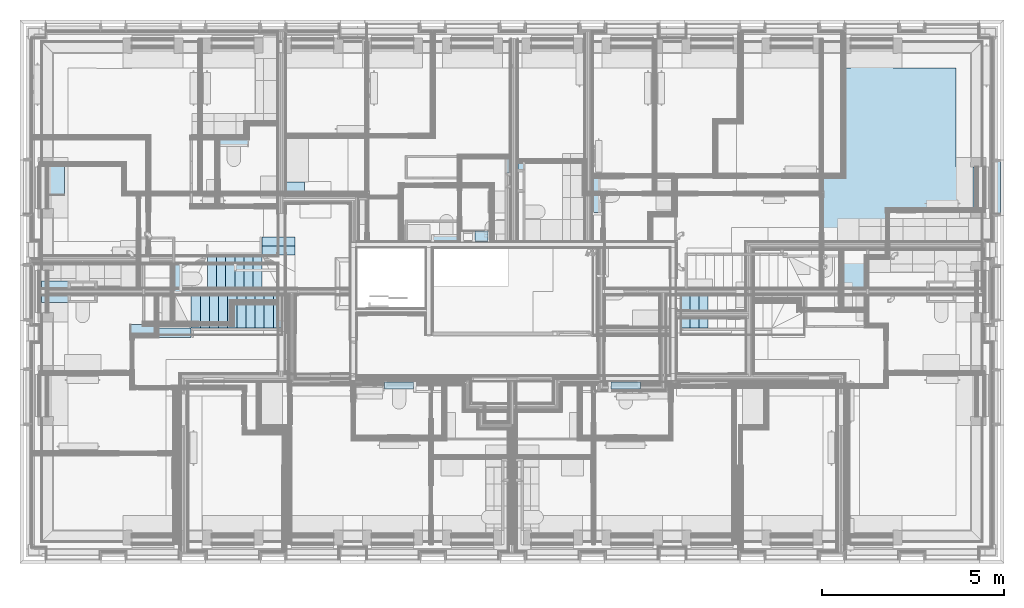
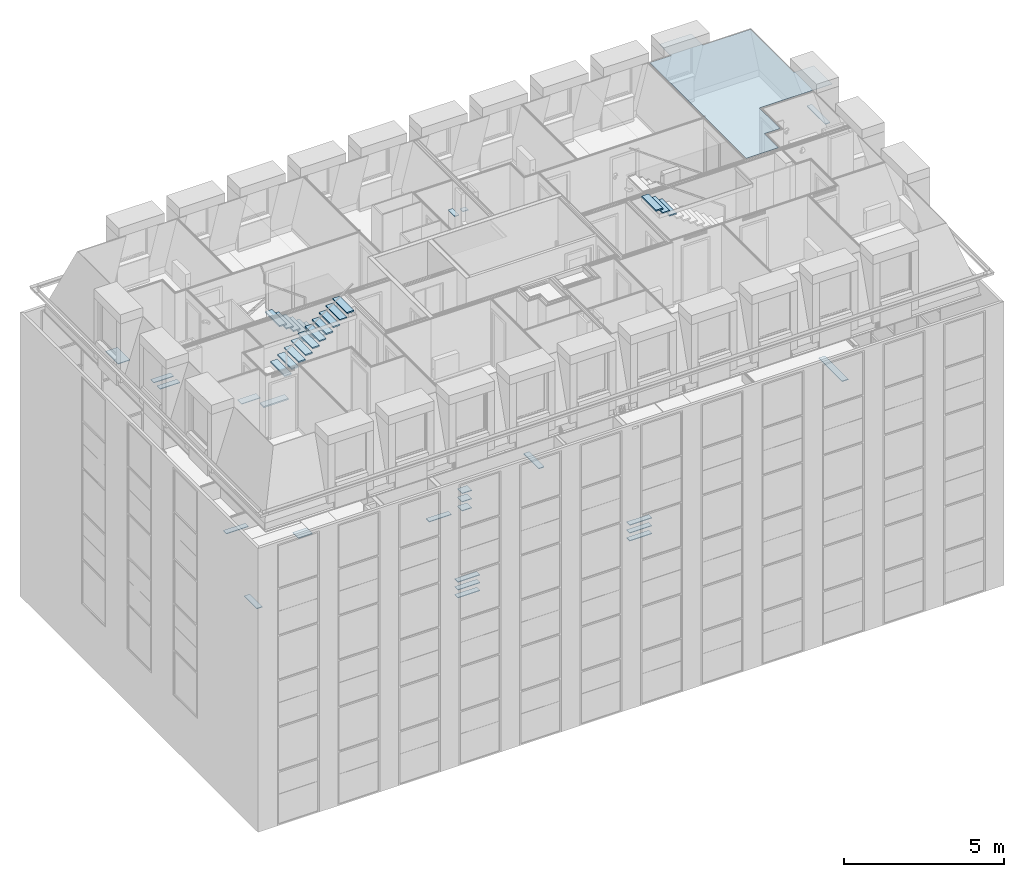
# One storey, part 81 of 169: 45 slabs.
"""IFC2X3 building model written with IfcOpenShell, lengths in metres."""

from ifc_helpers import new_model, entity, si_unit, converted_unit, derived_unit, money_unit, direction, frame, origin_with_axes, place, context, subcontext, project, spatial, faceted_brep, material, type_object, element, save


model = new_model("IFC2X3")

# Units and contexts
model_context = context("Model", 3, precision=1e-05, world=origin_with_axes(), true_north=direction((0.0, 1.0)))
body_context = subcontext(model_context, "Body", "Model", "MODEL_VIEW", scale=1.0)
ifc_project = project(units=[si_unit("LENGTHUNIT", "METRE"), si_unit("AREAUNIT", "SQUARE_METRE"), si_unit("VOLUMEUNIT", "CUBIC_METRE"), si_unit("ABSORBEDDOSEUNIT", "GRAY"), si_unit("AMOUNTOFSUBSTANCEUNIT", "MOLE"), si_unit("DOSEEQUIVALENTUNIT", "SIEVERT"), si_unit("ELECTRICCAPACITANCEUNIT", "FARAD"), si_unit("ELECTRICCHARGEUNIT", "COULOMB"), si_unit("ELECTRICCONDUCTANCEUNIT", "SIEMENS"), si_unit("ELECTRICCURRENTUNIT", "AMPERE"), si_unit("ELECTRICRESISTANCEUNIT", "OHM"), si_unit("ELECTRICVOLTAGEUNIT", "VOLT"), si_unit("ENERGYUNIT", "JOULE"), si_unit("FORCEUNIT", "NEWTON"), si_unit("FREQUENCYUNIT", "HERTZ"), si_unit("ILLUMINANCEUNIT", "LUX"), si_unit("INDUCTANCEUNIT", "HENRY"), si_unit("LUMINOUSFLUXUNIT", "LUMEN"), si_unit("LUMINOUSINTENSITYUNIT", "CANDELA"), si_unit("MAGNETICFLUXDENSITYUNIT", "TESLA"), si_unit("MAGNETICFLUXUNIT", "WEBER"), si_unit("MASSUNIT", "GRAM"), converted_unit("PLANEANGLEUNIT", "degree", entity("IfcReal", 0.0174532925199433), si_unit("PLANEANGLEUNIT", "RADIAN"), dimensions=[0, 0, 0, 0, 0, 0, 0]), si_unit("POWERUNIT", "WATT"), si_unit("PRESSUREUNIT", "PASCAL"), si_unit("RADIOACTIVITYUNIT", "BECQUEREL"), si_unit("SOLIDANGLEUNIT", "STERADIAN"), si_unit("THERMODYNAMICTEMPERATUREUNIT", "KELVIN"), si_unit("TIMEUNIT", "SECOND"), derived_unit("ACCELERATIONUNIT", [(si_unit("LENGTHUNIT", "METRE"), 1), (si_unit("TIMEUNIT", "SECOND"), -2)]), derived_unit("ANGULARVELOCITYUNIT", [(converted_unit("PLANEANGLEUNIT", "degree", entity("IfcReal", 0.0174532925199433), si_unit("PLANEANGLEUNIT", "RADIAN"), dimensions=[0, 0, 0, 0, 0, 0, 0]), 1), (si_unit("TIMEUNIT", "SECOND"), -1)]), derived_unit("CURVATUREUNIT", [(converted_unit("PLANEANGLEUNIT", "degree", entity("IfcReal", 0.0174532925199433), si_unit("PLANEANGLEUNIT", "RADIAN"), dimensions=[0, 0, 0, 0, 0, 0, 0]), 1), (si_unit("LENGTHUNIT", "METRE"), -1)]), derived_unit("DYNAMICVISCOSITYUNIT", [(si_unit("PRESSUREUNIT", "PASCAL"), 1), (si_unit("TIMEUNIT", "SECOND"), 1)]), derived_unit("HEATFLUXDENSITYUNIT", [(si_unit("POWERUNIT", "WATT"), 1), (si_unit("LENGTHUNIT", "METRE"), -2)]), derived_unit("HEATINGVALUEUNIT", [(si_unit("ENERGYUNIT", "JOULE"), 1), (si_unit("MASSUNIT", "GRAM"), -1)]), derived_unit("INTEGERCOUNTRATEUNIT", [(si_unit("TIMEUNIT", "SECOND"), -1)]), derived_unit("IONCONCENTRATIONUNIT", [(si_unit("MASSUNIT", "GRAM"), 1), (si_unit("VOLUMEUNIT", "CUBIC_METRE"), -1)]), derived_unit("ISOTHERMALMOISTURECAPACITYUNIT", [(si_unit("VOLUMEUNIT", "CUBIC_METRE"), 1), (si_unit("MASSUNIT", "GRAM"), -1)]), derived_unit("KINEMATICVISCOSITYUNIT", [(si_unit("AREAUNIT", "SQUARE_METRE"), 1), (si_unit("TIMEUNIT", "SECOND"), -1)]), derived_unit("LINEARFORCEUNIT", [(si_unit("FORCEUNIT", "NEWTON"), 1), (si_unit("LENGTHUNIT", "METRE"), -1)]), derived_unit("LINEARMOMENTUNIT", [(si_unit("FORCEUNIT", "NEWTON"), 1), (si_unit("LENGTHUNIT", "METRE"), -1)]), derived_unit("LINEARSTIFFNESSUNIT", [(si_unit("FORCEUNIT", "NEWTON"), 1), (si_unit("LENGTHUNIT", "METRE"), -1)]), derived_unit("LINEARVELOCITYUNIT", [(si_unit("LENGTHUNIT", "METRE"), 1), (si_unit("TIMEUNIT", "SECOND"), -1)]), derived_unit("LUMINOUSINTENSITYDISTRIBUTIONUNIT", [(si_unit("LUMINOUSINTENSITYUNIT", "CANDELA"), 1), (si_unit("LUMINOUSFLUXUNIT", "LUMEN"), -1)]), derived_unit("MASSDENSITYUNIT", [(si_unit("MASSUNIT", "GRAM"), 1), (si_unit("VOLUMEUNIT", "CUBIC_METRE"), -1)]), derived_unit("MASSFLOWRATEUNIT", [(si_unit("MASSUNIT", "GRAM"), 1), (si_unit("TIMEUNIT", "SECOND"), -1)]), derived_unit("MASSPERLENGTHUNIT", [(si_unit("MASSUNIT", "GRAM"), 1), (si_unit("LENGTHUNIT", "METRE"), -1)]), derived_unit("MODULUSOFELASTICITYUNIT", [(si_unit("FORCEUNIT", "NEWTON"), 1), (si_unit("AREAUNIT", "SQUARE_METRE"), -1)]), derived_unit("MODULUSOFLINEARSUBGRADEREACTIONUNIT", [(si_unit("FORCEUNIT", "NEWTON"), 1), (si_unit("LENGTHUNIT", "METRE"), -2)]), derived_unit("MODULUSOFROTATIONALSUBGRADEREACTIONUNIT", [(si_unit("FORCEUNIT", "NEWTON"), 1), (si_unit("LENGTHUNIT", "METRE"), 1)]), derived_unit("MODULUSOFSUBGRADEREACTIONUNIT", [(si_unit("FORCEUNIT", "NEWTON"), 1), (si_unit("VOLUMEUNIT", "CUBIC_METRE"), -1)]), derived_unit("MOISTUREDIFFUSIVITYUNIT", [(si_unit("VOLUMEUNIT", "CUBIC_METRE"), 1), (si_unit("TIMEUNIT", "SECOND"), -1)]), derived_unit("MOLECULARWEIGHTUNIT", [(si_unit("MASSUNIT", "GRAM"), 1), (si_unit("AMOUNTOFSUBSTANCEUNIT", "MOLE"), -1)]), derived_unit("PLANARFORCEUNIT", [(si_unit("FORCEUNIT", "NEWTON"), 1), (si_unit("LENGTHUNIT", "METRE"), -2)]), derived_unit("ROTATIONALFREQUENCYUNIT", [(si_unit("TIMEUNIT", "SECOND"), -1)]), derived_unit("ROTATIONALMASSUNIT", [(si_unit("MASSUNIT", "GRAM"), 1), (si_unit("LENGTHUNIT", "METRE"), 2)]), derived_unit("ROTATIONALSTIFFNESSUNIT", [(si_unit("FORCEUNIT", "NEWTON"), 1), (si_unit("LENGTHUNIT", "METRE"), 1), (converted_unit("PLANEANGLEUNIT", "degree", entity("IfcReal", 0.0174532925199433), si_unit("PLANEANGLEUNIT", "RADIAN"), dimensions=[0, 0, 0, 0, 0, 0, 0]), -1)]), derived_unit("SECTIONAREAINTEGRALUNIT", [(si_unit("LENGTHUNIT", "METRE"), 5)]), derived_unit("SECTIONMODULUSUNIT", [(si_unit("LENGTHUNIT", "METRE"), 3)]), derived_unit("SHEARMODULUSUNIT", [(si_unit("FORCEUNIT", "NEWTON"), 1), (si_unit("AREAUNIT", "SQUARE_METRE"), -1)]), derived_unit("SOUNDPOWERUNIT", [(si_unit("ENERGYUNIT", "JOULE"), 1), (si_unit("TIMEUNIT", "SECOND"), -1)]), derived_unit("SPECIFICHEATCAPACITYUNIT", [(si_unit("FORCEUNIT", "NEWTON"), 1), (si_unit("MASSUNIT", "GRAM"), -1), (si_unit("THERMODYNAMICTEMPERATUREUNIT", "KELVIN"), -1)]), derived_unit("TEMPERATUREGRADIENTUNIT", [(si_unit("THERMODYNAMICTEMPERATUREUNIT", "KELVIN"), 1), (si_unit("LENGTHUNIT", "METRE"), -1)]), derived_unit("THERMALADMITTANCEUNIT", [(si_unit("POWERUNIT", "WATT"), 1), (si_unit("AREAUNIT", "SQUARE_METRE"), -1), (si_unit("THERMODYNAMICTEMPERATUREUNIT", "KELVIN"), -1)]), derived_unit("THERMALCONDUCTANCEUNIT", [(si_unit("POWERUNIT", "WATT"), 1), (si_unit("LENGTHUNIT", "METRE"), -1), (si_unit("THERMODYNAMICTEMPERATUREUNIT", "KELVIN"), -1)]), derived_unit("THERMALEXPANSIONCOEFFICIENTUNIT", [(si_unit("THERMODYNAMICTEMPERATUREUNIT", "KELVIN"), -1)]), derived_unit("THERMALRESISTANCEUNIT", [(si_unit("AREAUNIT", "SQUARE_METRE"), 1), (si_unit("POWERUNIT", "WATT"), -1)]), derived_unit("THERMALTRANSMITTANCEUNIT", [(si_unit("POWERUNIT", "WATT"), 1), (si_unit("AREAUNIT", "SQUARE_METRE"), -1), (si_unit("THERMODYNAMICTEMPERATUREUNIT", "KELVIN"), -1)]), derived_unit("TORQUEUNIT", [(si_unit("FORCEUNIT", "NEWTON"), 1), (si_unit("LENGTHUNIT", "METRE"), 1)]), derived_unit("VAPORPERMEABILITYUNIT", [(si_unit("MASSUNIT", "GRAM"), 1), (si_unit("TIMEUNIT", "SECOND"), -1)]), derived_unit("VOLUMETRICFLOWRATEUNIT", [(si_unit("VOLUMEUNIT", "CUBIC_METRE"), 1), (si_unit("TIMEUNIT", "SECOND"), -1)]), derived_unit("WARPINGCONSTANTUNIT", [(si_unit("LENGTHUNIT", "METRE"), 6)]), derived_unit("WARPINGMOMENTUNIT", [(si_unit("FORCEUNIT", "NEWTON"), 1), (si_unit("LENGTHUNIT", "METRE"), 2)]), money_unit("GBP")], contexts=[model_context])

# Site, building, storey
site_placement = place(None, origin_with_axes())
site = spatial("IfcSite", under=ifc_project, at=site_placement, Name="Site", CompositionType="ELEMENT")
building_placement = place(site_placement, origin_with_axes())
building = spatial("IfcBuilding", under=site, at=building_placement, Name="Building01", CompositionType="ELEMENT")
storey_placement = place(building_placement, frame((0.0, 0.0, 5.15), z_axis=(0.0, 0.0, 1.0), x_axis=(1.0, 0.0, 0.0)))
storey = spatial("IfcBuildingStorey", under=building, at=storey_placement, Name="1F", CompositionType="ELEMENT", Elevation=5.15)

# Slabs
ifc_material_1 = material(Name="A_BSUK_Ceramic_WallTiles")
slab_type = type_object("IfcSlabType", Name="A-FloorsSlabs A_BSUK_Slabs", PredefinedType="FLOOR")
for number, where, z_axis, x_axis, name in (
    (1, (17.0075, 4.779998, 1.375), (0.0, 0.0, 1.0), (1.0, 0.0, 0.0), "A-FloorsSlabs A_BSUK_Slabs"),
    (2, (17.0075, 4.779998, 1.675), (0.0, 0.0, 1.0), (1.0, 0.0, 0.0), "A-FloorsSlabs A_BSUK_Slabs"),
    (3, (17.0075, 4.779998, 1.975), (0.0, 0.0, 1.0), (1.0, 0.0, 0.0), "A-FloorsSlabs A_BSUK_Slabs"),
):
    element("IfcSlab", number, at=place(storey_placement, frame(where, z_axis=z_axis, x_axis=x_axis)), inside=storey, type_object=slab_type, material=ifc_material_1, Name=name, ObjectType="A-FloorsSlabs A_BSUK_Slabs", context=body_context, shape_type="Brep", body=[
        faceted_brep([(0.0, 0.200002, 0.0), (0.0, 0.200002, 0.025), (0.0, 0.0, 0.025), (0.0, 0.0, 0.0), (-0.8, 3e-06, 0.025), (-0.8, 3e-06, 0.0), (-0.799999, 0.200002, 0.025), (-0.799999, 0.200002, 0.0)], [[[0, 1, 2, 3]], [[3, 2, 4, 5]], [[5, 4, 6, 7]], [[7, 6, 1, 0]], [[1, 6, 4, 2]], [[3, 5, 7, 0]]]),
    ])
for number, where, z_axis, x_axis, name in (
    (4, (9.992536, 4.779998, 1.375), (0.0, 0.0, 1.0), (1.0, 0.0, 0.0), "A-FloorsSlabs A_BSUK_Slabs"),
    (5, (9.992536, 4.779998, 1.675), (0.0, 0.0, 1.0), (1.0, 0.0, 0.0), "A-FloorsSlabs A_BSUK_Slabs"),
    (6, (9.992536, 4.779998, 1.975), (0.0, 0.0, 1.0), (1.0, 0.0, 0.0), "A-FloorsSlabs A_BSUK_Slabs"),
):
    element("IfcSlab", number, at=place(storey_placement, frame(where, z_axis=z_axis, x_axis=x_axis)), inside=storey, type_object=slab_type, material=ifc_material_1, Name=name, ObjectType="A-FloorsSlabs A_BSUK_Slabs", context=body_context, shape_type="Brep", body=[
        faceted_brep([(0.0, 0.0, 0.0), (0.0, 0.0, 0.025), (0.0, 0.200002, 0.025), (0.0, 0.200002, 0.0), (0.8, 3e-06, 0.0), (0.8, 3e-06, 0.025), (0.799999, 0.200002, 0.0), (0.799999, 0.200002, 0.025)], [[[0, 1, 2, 3]], [[4, 5, 1, 0]], [[6, 7, 5, 4]], [[3, 2, 7, 6]], [[1, 5, 7, 2]], [[3, 6, 4, 0]]]),
    ])
slab_1_placement = place(storey_placement, frame((4.44073, 6.914372, 1.375), z_axis=(0.0, 0.0, 1.0), x_axis=(0.0, 1.0, 0.0)))
element("IfcSlab", 7, at=slab_1_placement, inside=storey, type_object=slab_type, material=ifc_material_1, Name="A-FloorsSlabs A_BSUK_Slabs", ObjectType="A-FloorsSlabs A_BSUK_Slabs", context=body_context, shape_type="Brep", body=[
    faceted_brep([(0.496298, 1e-06, 0.0), (0.496298, 1e-06, 0.025), (0.496298, 0.2, 0.025), (0.496298, 0.2, 0.0), (1.296298, 4e-06, 0.0), (1.296298, 4e-06, 0.025), (1.296298, 0.2, 0.0), (1.296298, 0.2, 0.025)], [[[0, 1, 2, 3]], [[4, 5, 1, 0]], [[6, 7, 5, 4]], [[3, 2, 7, 6]], [[1, 5, 7, 2]], [[3, 6, 4, 0]]]),
])
placement = place(storey_placement, frame((0.0, 0.0, -5.15), z_axis=(0.0, 0.0, 1.0), x_axis=(1.0, 0.0, 0.0)))
element("IfcSlab", 8, at=placement, inside=storey, type_object=slab_type, material=ifc_material_1, Name="A-FloorsSlabs A_BSUK_Slabs", ObjectType="CompoundSlabLeaf", context=body_context, shape_type="Brep", body=[
    faceted_brep([(12.088871, 9.02, 6.525), (12.088871, 9.02, 6.55), (12.088871, 8.82, 6.55), (12.088871, 8.82, 6.525), (11.288873, 9.019997, 6.525), (11.288873, 9.019997, 6.55), (11.288874, 8.82, 6.525), (11.288874, 8.82, 6.55)], [[[0, 1, 2, 3]], [[4, 5, 1, 0]], [[6, 7, 5, 4]], [[3, 2, 7, 6]], [[1, 5, 7, 2]], [[3, 6, 4, 0]]]),
])
element("IfcSlab", 9, at=placement, inside=storey, type_object=slab_type, material=ifc_material_1, Name="A-FloorsSlabs A_BSUK_Slabs", ObjectType="CompoundSlabLeaf", context=body_context, shape_type="Brep", body=[
    faceted_brep([(12.478585, 8.82, 6.525), (12.478585, 8.82, 6.55), (12.478585, 9.12, 6.55), (12.478585, 9.12, 6.525), (12.828585, 8.82, 6.525), (12.828585, 8.82, 6.55), (12.828585, 9.12, 6.525), (12.828585, 9.12, 6.55)], [[[0, 1, 2, 3]], [[4, 5, 1, 0]], [[6, 7, 5, 4]], [[3, 2, 7, 6]], [[1, 5, 7, 2]], [[3, 6, 4, 0]]]),
])
element("IfcSlab", 10, at=placement, inside=storey, type_object=slab_type, material=ifc_material_1, Name="A-FloorsSlabs A_BSUK_Slabs", ObjectType="CompoundSlabLeaf", context=body_context, shape_type="Brep", body=[
    faceted_brep([(12.478585, 8.82, 7.19), (12.478585, 8.82, 7.215), (12.478585, 9.12, 7.215), (12.478585, 9.12, 7.19), (12.828585, 8.82, 7.19), (12.828585, 8.82, 7.215), (12.828585, 9.12, 7.19), (12.828585, 9.12, 7.215)], [[[0, 1, 2, 3]], [[4, 5, 1, 0]], [[6, 7, 5, 4]], [[3, 2, 7, 6]], [[1, 5, 7, 2]], [[3, 6, 4, 0]]]),
])
element("IfcSlab", 11, at=placement, inside=storey, type_object=slab_type, material=ifc_material_1, Name="A-FloorsSlabs A_BSUK_Slabs", ObjectType="CompoundSlabLeaf", context=body_context, shape_type="Brep", body=[
    faceted_brep([(12.478585, 8.82, 6.869973), (12.478585, 8.82, 6.894973), (12.478585, 9.12, 6.894973), (12.478585, 9.12, 6.869973), (12.828585, 8.82, 6.869973), (12.828585, 8.82, 6.894973), (12.828585, 9.12, 6.869973), (12.828585, 9.12, 6.894973)], [[[0, 1, 2, 3]], [[4, 5, 1, 0]], [[6, 7, 5, 4]], [[3, 2, 7, 6]], [[1, 5, 7, 2]], [[3, 6, 4, 0]]]),
])
element("IfcSlab", 12, at=placement, inside=storey, type_object=slab_type, material=ifc_material_1, Name="A-FloorsSlabs A_BSUK_Slabs", ObjectType="CompoundSlabLeaf", context=body_context, shape_type="Brep", body=[
    faceted_brep([(15.908132, 9.62, 6.525), (15.908132, 9.62, 6.55), (15.708132, 9.62, 6.55), (15.708132, 9.62, 6.525), (15.908132, 10.57, 6.525), (15.908132, 10.57, 6.55), (15.708132, 10.57, 6.525), (15.708132, 10.57, 6.55)], [[[0, 1, 2, 3]], [[4, 5, 1, 0]], [[6, 7, 5, 4]], [[3, 2, 7, 6]], [[1, 5, 7, 2]], [[3, 6, 4, 0]]]),
])
element("IfcSlab", 13, at=placement, inside=storey, type_object=slab_type, material=ifc_material_1, Name="A-FloorsSlabs A_BSUK_Slabs", ObjectType="CompoundSlabLeaf", context=body_context, shape_type="Brep", body=[
    faceted_brep([(5.464669, 11.43067, 6.525), (5.464669, 11.43067, 6.55), (5.464669, 11.63067, 6.55), (5.464669, 11.63067, 6.525), (6.264669, 11.430672, 6.525), (6.264669, 11.430672, 6.55), (6.264669, 11.63067, 6.525), (6.264669, 11.63067, 6.55)], [[[0, 1, 2, 3]], [[4, 5, 1, 0]], [[6, 7, 5, 4]], [[3, 2, 7, 6]], [[1, 5, 7, 2]], [[3, 6, 4, 0]]]),
])
element("IfcSlab", 14, at=placement, inside=storey, type_object=slab_type, material=ifc_material_1, Name="A-FloorsSlabs A_BSUK_Slabs", ObjectType="CompoundSlabLeaf", context=body_context, shape_type="Brep", body=[
    faceted_brep([(7.804669, 10.453124, 6.525), (7.804669, 10.453124, 6.55), (7.804669, 10.087704, 6.55), (7.804669, 10.087704, 6.525), (7.289669, 10.453124, 6.525), (7.289669, 10.453124, 6.55), (7.289669, 10.087704, 6.525), (7.289669, 10.087704, 6.55)], [[[0, 1, 2, 3]], [[4, 5, 1, 0]], [[6, 7, 5, 4]], [[3, 2, 7, 6]], [[1, 5, 7, 2]], [[3, 6, 4, 0]]]),
])
ifc_material_2 = material(Name="A_BSUK_Timber_Miscellaneous")
element("IfcSlab", 15, at=placement, inside=storey, type_object=slab_type, material=ifc_material_2, Name="A-FloorsSlabs A_BSUK_Slabs", ObjectType="CompoundSlabLeaf", context=body_context, shape_type="Brep", body=[
    faceted_brep([(26.88, 9.56218, 6.065), (26.88, 9.56218, 6.09), (26.646998, 9.56218, 6.09), (26.646998, 9.56218, 6.065), (26.88, 11.03218, 6.065), (26.88, 11.03218, 6.09), (26.647, 11.03218, 6.065), (26.647, 11.03218, 6.09)], [[[0, 1, 2, 3]], [[4, 5, 1, 0]], [[6, 7, 5, 4]], [[3, 2, 7, 6]], [[1, 5, 7, 2]], [[3, 6, 4, 0]]]),
])
element("IfcSlab", 16, at=placement, inside=storey, type_object=slab_type, material=ifc_material_1, Name="A-FloorsSlabs A_BSUK_Slabs", ObjectType="CompoundSlabLeaf", context=body_context, shape_type="Brep", body=[
    faceted_brep([(3.039976, 6.279939, 15.455), (3.039976, 6.279939, 15.48), (3.039976, 6.549939, 15.48), (3.039976, 6.549939, 15.455), (3.715111, 6.279939, 15.455), (3.715111, 6.279939, 15.48), (3.715111, 6.549939, 15.455), (3.715111, 6.549939, 15.48)], [[[0, 1, 2, 3]], [[4, 5, 1, 0]], [[6, 7, 5, 4]], [[3, 2, 7, 6]], [[1, 5, 7, 2]], [[3, 6, 4, 0]]]),
])
element("IfcSlab", 17, at=placement, inside=storey, type_object=slab_type, material=ifc_material_1, Name="A-FloorsSlabs A_BSUK_Slabs", ObjectType="CompoundSlabLeaf", context=body_context, shape_type="Brep", body=[
    faceted_brep([(13.44999, 10.698806, 16.355), (13.44999, 10.698806, 16.38), (13.29737, 10.698806, 16.38), (13.29737, 10.698806, 16.355), (13.44999, 11.103849, 16.355), (13.44999, 11.103849, 16.38), (13.29736, 11.103855, 16.355), (13.29736, 11.103855, 16.38)], [[[0, 1, 2, 3]], [[4, 5, 1, 0]], [[6, 7, 5, 4]], [[3, 2, 7, 6]], [[1, 5, 7, 2]], [[3, 6, 4, 0]]]),
])
element("IfcSlab", 18, at=placement, inside=storey, type_object=slab_type, material=ifc_material_1, Name="A-FloorsSlabs A_BSUK_Slabs", ObjectType="CompoundSlabLeaf", context=body_context, shape_type="Brep", body=[
    faceted_brep([(13.849998, 10.803883, 16.355), (13.849998, 10.803883, 16.38), (13.65, 10.803883, 16.38), (13.65, 10.803883, 16.355), (13.849998, 10.983789, 16.355), (13.849998, 10.983789, 16.38), (13.65, 10.983789, 16.355), (13.65, 10.983789, 16.38)], [[[0, 1, 2, 3]], [[4, 5, 1, 0]], [[6, 7, 5, 4]], [[3, 2, 7, 6]], [[1, 5, 7, 2]], [[3, 6, 4, 0]]]),
])
element("IfcSlab", 19, at=placement, inside=storey, type_object=slab_type, material=ifc_material_2, Name="A-FloorsSlabs A_BSUK_Slabs", ObjectType="CompoundSlabLeaf", context=body_context, shape_type="Brep", body=[
    faceted_brep([(26.304661, 9.724915, 15.98), (26.304661, 9.724915, 16.005), (26.130059, 9.724915, 16.005), (26.130059, 9.724915, 15.98), (26.304661, 10.874915, 15.98), (26.304661, 10.874915, 16.005), (26.130061, 10.874915, 15.98), (26.130061, 10.874915, 16.005)], [[[0, 1, 2, 3]], [[4, 5, 1, 0]], [[6, 7, 5, 4]], [[3, 2, 7, 6]], [[1, 5, 7, 2]], [[3, 6, 4, 0]]]),
])
element("IfcSlab", 20, at=placement, inside=storey, type_object=slab_type, material=ifc_material_1, Name="A-FloorsSlabs A_BSUK_Slabs", ObjectType="CompoundSlabLeaf", context=body_context, shape_type="Brep", body=[
    faceted_brep([(1.22, 10.114939, 15.455), (1.22, 10.114939, 15.48), (0.779939, 10.114939, 15.48), (0.779939, 10.114939, 15.455), (1.22, 10.899939, 15.455), (1.22, 10.899939, 15.48), (0.779939, 10.899939, 15.455), (0.779939, 10.899939, 15.48)], [[[0, 1, 2, 3]], [[4, 5, 1, 0]], [[6, 7, 5, 4]], [[3, 2, 7, 6]], [[1, 5, 7, 2]], [[3, 6, 4, 0]]]),
])
ifc_material_3 = material(Name="A_BSUK_CeilingSoffitFinishes_Suspended")
element("IfcSlab", 21, at=placement, inside=storey, type_object=slab_type, material=ifc_material_3, Name="A-FloorsSlabs A_BSUK_Slabs", ObjectType="CompoundSlabLeaf", context=body_context, shape_type="Brep", body=[
    faceted_brep([(22.019976, 7.549915, 17.438), (22.019976, 7.549915, 17.453), (22.019976, 13.587598, 17.453), (22.019976, 13.587598, 17.438), (23.178821, 7.549915, 17.438), (23.178821, 7.549915, 17.453), (23.178821, 8.429915, 17.438), (23.178821, 8.429915, 17.453), (23.75, 8.429915, 17.438), (23.75, 8.429915, 17.453), (23.75, 9.724915, 17.438), (23.75, 9.724915, 17.453), (26.380061, 9.724915, 17.438), (26.380061, 9.724915, 17.453), (26.380061, 10.874915, 17.438), (26.380061, 10.874915, 17.453), (25.667598, 10.874915, 17.438), (25.667598, 10.874915, 17.453), (25.667598, 13.587598, 17.438), (25.667598, 13.587598, 17.453), (23.930024, 13.587598, 17.438), (23.930024, 13.587598, 17.453), (23.930024, 14.300061, 17.438), (23.930024, 14.300061, 17.453), (22.780024, 14.300061, 17.438), (22.780024, 14.300061, 17.453), (22.780024, 13.587598, 17.438), (22.780024, 13.587598, 17.453)], [[[0, 1, 2, 3]], [[4, 5, 1, 0]], [[6, 7, 5, 4]], [[8, 9, 7, 6]], [[10, 11, 9, 8]], [[12, 13, 11, 10]], [[14, 15, 13, 12]], [[16, 17, 15, 14]], [[18, 19, 17, 16]], [[20, 21, 19, 18]], [[22, 23, 21, 20]], [[24, 25, 23, 22]], [[26, 27, 25, 24]], [[3, 2, 27, 26]], [[1, 5, 7, 9, 11, 13, 15, 17, 19, 21, 23, 25, 27, 2]], [[3, 26, 24, 22, 20, 18, 16, 14, 12, 10, 8, 6, 4, 0]]]),
])
ifc_material_4 = material(Name="A_BSUK_Slabs")
element("IfcSlab", 22, at=placement, inside=storey, type_object=slab_type, material=ifc_material_4, Name="A-FloorsSlabs A_BSUK_Slabs", ObjectType="CompoundSlabLeaf", context=body_context, shape_type="Brep", body=[
    faceted_brep([(6.945111, 7.349939, 17.45), (6.945111, 7.349939, 17.5), (7.195111, 7.349939, 17.5), (7.195111, 7.349939, 17.45), (6.945111, 6.449939, 17.45), (6.945111, 6.449939, 17.5), (7.195111, 6.449939, 17.45), (7.195111, 6.449939, 17.5)], [[[0, 1, 2, 3]], [[4, 5, 1, 0]], [[6, 7, 5, 4]], [[3, 2, 7, 6]], [[1, 5, 7, 2]], [[3, 6, 4, 0]]]),
])
element("IfcSlab", 23, at=placement, inside=storey, type_object=slab_type, material=ifc_material_4, Name="A-FloorsSlabs A_BSUK_Slabs", ObjectType="CompoundSlabLeaf", context=body_context, shape_type="Brep", body=[
    faceted_brep([(6.695111, 7.349939, 17.27), (6.695111, 7.349939, 17.32), (6.945111, 7.349939, 17.32), (6.945111, 7.349939, 17.27), (6.695111, 6.449939, 17.27), (6.695111, 6.449939, 17.32), (6.945111, 6.449939, 17.27), (6.945111, 6.449939, 17.32)], [[[0, 1, 2, 3]], [[4, 5, 1, 0]], [[6, 7, 5, 4]], [[3, 2, 7, 6]], [[1, 5, 7, 2]], [[3, 6, 4, 0]]]),
])
element("IfcSlab", 24, at=placement, inside=storey, type_object=slab_type, material=ifc_material_4, Name="A-FloorsSlabs A_BSUK_Slabs", ObjectType="CompoundSlabLeaf", context=body_context, shape_type="Brep", body=[
    faceted_brep([(6.445111, 7.349939, 17.09), (6.445111, 7.349939, 17.14), (6.695111, 7.349939, 17.14), (6.695111, 7.349939, 17.09), (6.445111, 6.449939, 17.09), (6.445111, 6.449939, 17.14), (6.695111, 6.449939, 17.09), (6.695111, 6.449939, 17.14)], [[[0, 1, 2, 3]], [[4, 5, 1, 0]], [[6, 7, 5, 4]], [[3, 2, 7, 6]], [[1, 5, 7, 2]], [[3, 6, 4, 0]]]),
])
element("IfcSlab", 25, at=placement, inside=storey, type_object=slab_type, material=ifc_material_4, Name="A-FloorsSlabs A_BSUK_Slabs", ObjectType="CompoundSlabLeaf", context=body_context, shape_type="Brep", body=[
    faceted_brep([(6.195111, 7.349939, 16.91), (6.195111, 7.349939, 16.96), (6.445111, 7.349939, 16.96), (6.445111, 7.349939, 16.91), (6.195111, 6.449939, 16.91), (6.195111, 6.449939, 16.96), (6.445111, 6.449939, 16.91), (6.445111, 6.449939, 16.96)], [[[0, 1, 2, 3]], [[4, 5, 1, 0]], [[6, 7, 5, 4]], [[3, 2, 7, 6]], [[1, 5, 7, 2]], [[3, 6, 4, 0]]]),
])
element("IfcSlab", 26, at=placement, inside=storey, type_object=slab_type, material=ifc_material_4, Name="A-FloorsSlabs A_BSUK_Slabs", ObjectType="CompoundSlabLeaf", context=body_context, shape_type="Brep", body=[
    faceted_brep([(5.945111, 7.349939, 16.73), (5.945111, 7.349939, 16.78), (6.195111, 7.349939, 16.78), (6.195111, 7.349939, 16.73), (5.945111, 6.449939, 16.73), (5.945111, 6.449939, 16.78), (6.195111, 6.449939, 16.73), (6.195111, 6.449939, 16.78)], [[[0, 1, 2, 3]], [[4, 5, 1, 0]], [[6, 7, 5, 4]], [[3, 2, 7, 6]], [[1, 5, 7, 2]], [[3, 6, 4, 0]]]),
])
element("IfcSlab", 27, at=placement, inside=storey, type_object=slab_type, material=ifc_material_4, Name="A-FloorsSlabs A_BSUK_Slabs", ObjectType="CompoundSlabLeaf", context=body_context, shape_type="Brep", body=[
    faceted_brep([(5.695111, 7.349939, 16.55), (5.695111, 7.349939, 16.6), (5.945111, 7.349939, 16.6), (5.945111, 7.349939, 16.55), (5.695111, 6.449939, 16.55), (5.695111, 6.449939, 16.6), (5.945111, 6.449939, 16.55), (5.945111, 6.449939, 16.6)], [[[0, 1, 2, 3]], [[4, 5, 1, 0]], [[6, 7, 5, 4]], [[3, 2, 7, 6]], [[1, 5, 7, 2]], [[3, 6, 4, 0]]]),
])
element("IfcSlab", 28, at=placement, inside=storey, type_object=slab_type, material=ifc_material_4, Name="A-FloorsSlabs A_BSUK_Slabs", ObjectType="CompoundSlabLeaf", context=body_context, shape_type="Brep", body=[
    faceted_brep([(5.445111, 7.349939, 16.37), (5.445111, 7.349939, 16.42), (5.695111, 7.349939, 16.42), (5.695111, 7.349939, 16.37), (5.445111, 6.449939, 16.37), (5.445111, 6.449939, 16.42), (5.695111, 6.449939, 16.37), (5.695111, 6.449939, 16.42)], [[[0, 1, 2, 3]], [[4, 5, 1, 0]], [[6, 7, 5, 4]], [[3, 2, 7, 6]], [[1, 5, 7, 2]], [[3, 6, 4, 0]]]),
])
element("IfcSlab", 29, at=placement, inside=storey, type_object=slab_type, material=ifc_material_4, Name="A-FloorsSlabs A_BSUK_Slabs", ObjectType="CompoundSlabLeaf", context=body_context, shape_type="Brep", body=[
    faceted_brep([(5.195111, 7.349939, 16.19), (5.195111, 7.349939, 16.24), (5.445111, 7.349939, 16.24), (5.445111, 7.349939, 16.19), (5.195111, 6.449939, 16.19), (5.195111, 6.449939, 16.24), (5.445111, 6.449939, 16.19), (5.445111, 6.449939, 16.24)], [[[0, 1, 2, 3]], [[4, 5, 1, 0]], [[6, 7, 5, 4]], [[3, 2, 7, 6]], [[1, 5, 7, 2]], [[3, 6, 4, 0]]]),
])
element("IfcSlab", 30, at=placement, inside=storey, type_object=slab_type, material=ifc_material_4, Name="A-FloorsSlabs A_BSUK_Slabs", ObjectType="CompoundSlabLeaf", context=body_context, shape_type="Brep", body=[
    faceted_brep([(4.945111, 7.349939, 16.01), (4.945111, 7.349939, 16.06), (5.195111, 7.349939, 16.06), (5.195111, 7.349939, 16.01), (4.945111, 6.449939, 16.01), (4.945111, 6.449939, 16.06), (5.195111, 6.449939, 16.01), (5.195111, 6.449939, 16.06)], [[[0, 1, 2, 3]], [[4, 5, 1, 0]], [[6, 7, 5, 4]], [[3, 2, 7, 6]], [[1, 5, 7, 2]], [[3, 6, 4, 0]]]),
])
element("IfcSlab", 31, at=placement, inside=storey, type_object=slab_type, material=ifc_material_4, Name="A-FloorsSlabs A_BSUK_Slabs", ObjectType="CompoundSlabLeaf", context=body_context, shape_type="Brep", body=[
    faceted_brep([(4.695111, 7.349939, 15.83), (4.695111, 7.349939, 15.88), (4.945111, 7.349939, 15.88), (4.945111, 7.349939, 15.83), (4.695111, 6.449939, 15.83), (4.695111, 6.449939, 15.88), (4.945111, 6.449939, 15.83), (4.945111, 6.449939, 15.88)], [[[0, 1, 2, 3]], [[4, 5, 1, 0]], [[6, 7, 5, 4]], [[3, 2, 7, 6]], [[1, 5, 7, 2]], [[3, 6, 4, 0]]]),
])
element("IfcSlab", 32, at=placement, inside=storey, type_object=slab_type, material=ifc_material_4, Name="A-FloorsSlabs A_BSUK_Slabs", ObjectType="CompoundSlabLeaf", context=body_context, shape_type="Brep", body=[
    faceted_brep([(4.695111, 6.449939, 15.11), (4.695111, 6.449939, 15.16), (4.695111, 6.199939, 15.16), (4.695111, 6.199939, 15.11), (3.795111, 6.449939, 15.11), (3.795111, 6.449939, 15.16), (3.795111, 6.199939, 15.11), (3.795111, 6.199939, 15.16)], [[[0, 1, 2, 3]], [[4, 5, 1, 0]], [[6, 7, 5, 4]], [[3, 2, 7, 6]], [[1, 5, 7, 2]], [[3, 6, 4, 0]]]),
])
element("IfcSlab", 33, at=placement, inside=storey, type_object=slab_type, material=ifc_material_4, Name="A-FloorsSlabs A_BSUK_Slabs", ObjectType="CompoundSlabLeaf", context=body_context, shape_type="Brep", body=[
    faceted_brep([(5.39, 7.549939, 16.91), (5.39, 7.549939, 16.96), (5.14, 7.549939, 16.96), (5.14, 7.549939, 16.91), (5.39, 8.449939, 16.91), (5.39, 8.449939, 16.96), (5.14, 8.449939, 16.91), (5.14, 8.449939, 16.96)], [[[0, 1, 2, 3]], [[4, 5, 1, 0]], [[6, 7, 5, 4]], [[3, 2, 7, 6]], [[1, 5, 7, 2]], [[3, 6, 4, 0]]]),
])
element("IfcSlab", 34, at=placement, inside=storey, type_object=slab_type, material=ifc_material_4, Name="A-FloorsSlabs A_BSUK_Slabs", ObjectType="CompoundSlabLeaf", context=body_context, shape_type="Brep", body=[
    faceted_brep([(5.64, 7.549939, 16.73), (5.64, 7.549939, 16.78), (5.39, 7.549939, 16.78), (5.39, 7.549939, 16.73), (5.64, 8.449939, 16.73), (5.64, 8.449939, 16.78), (5.39, 8.449939, 16.73), (5.39, 8.449939, 16.78)], [[[0, 1, 2, 3]], [[4, 5, 1, 0]], [[6, 7, 5, 4]], [[3, 2, 7, 6]], [[1, 5, 7, 2]], [[3, 6, 4, 0]]]),
])
element("IfcSlab", 35, at=placement, inside=storey, type_object=slab_type, material=ifc_material_4, Name="A-FloorsSlabs A_BSUK_Slabs", ObjectType="CompoundSlabLeaf", context=body_context, shape_type="Brep", body=[
    faceted_brep([(5.89, 7.549939, 16.55), (5.89, 7.549939, 16.6), (5.64, 7.549939, 16.6), (5.64, 7.549939, 16.55), (5.89, 8.449939, 16.55), (5.89, 8.449939, 16.6), (5.64, 8.449939, 16.55), (5.64, 8.449939, 16.6)], [[[0, 1, 2, 3]], [[4, 5, 1, 0]], [[6, 7, 5, 4]], [[3, 2, 7, 6]], [[1, 5, 7, 2]], [[3, 6, 4, 0]]]),
])
element("IfcSlab", 36, at=placement, inside=storey, type_object=slab_type, material=ifc_material_4, Name="A-FloorsSlabs A_BSUK_Slabs", ObjectType="CompoundSlabLeaf", context=body_context, shape_type="Brep", body=[
    faceted_brep([(6.14, 7.549939, 16.37), (6.14, 7.549939, 16.42), (5.89, 7.549939, 16.42), (5.89, 7.549939, 16.37), (6.14, 8.449939, 16.37), (6.14, 8.449939, 16.42), (5.89, 8.449939, 16.37), (5.89, 8.449939, 16.42)], [[[0, 1, 2, 3]], [[4, 5, 1, 0]], [[6, 7, 5, 4]], [[3, 2, 7, 6]], [[1, 5, 7, 2]], [[3, 6, 4, 0]]]),
])
element("IfcSlab", 37, at=placement, inside=storey, type_object=slab_type, material=ifc_material_4, Name="A-FloorsSlabs A_BSUK_Slabs", ObjectType="CompoundSlabLeaf", context=body_context, shape_type="Brep", body=[
    faceted_brep([(6.39, 7.549939, 16.19), (6.39, 7.549939, 16.24), (6.14, 7.549939, 16.24), (6.14, 7.549939, 16.19), (6.39, 8.449939, 16.19), (6.39, 8.449939, 16.24), (6.14, 8.449939, 16.19), (6.14, 8.449939, 16.24)], [[[0, 1, 2, 3]], [[4, 5, 1, 0]], [[6, 7, 5, 4]], [[3, 2, 7, 6]], [[1, 5, 7, 2]], [[3, 6, 4, 0]]]),
])
element("IfcSlab", 38, at=placement, inside=storey, type_object=slab_type, material=ifc_material_4, Name="A-FloorsSlabs A_BSUK_Slabs", ObjectType="CompoundSlabLeaf", context=body_context, shape_type="Brep", body=[
    faceted_brep([(6.64, 7.549939, 16.01), (6.64, 7.549939, 16.06), (6.39, 7.549939, 16.06), (6.39, 7.549939, 16.01), (6.64, 8.449939, 16.01), (6.64, 8.449939, 16.06), (6.39, 8.449939, 16.01), (6.39, 8.449939, 16.06)], [[[0, 1, 2, 3]], [[4, 5, 1, 0]], [[6, 7, 5, 4]], [[3, 2, 7, 6]], [[1, 5, 7, 2]], [[3, 6, 4, 0]]]),
])
element("IfcSlab", 39, at=placement, inside=storey, type_object=slab_type, material=ifc_material_4, Name="A-FloorsSlabs A_BSUK_Slabs", ObjectType="CompoundSlabLeaf", context=body_context, shape_type="Brep", body=[
    faceted_brep([(6.64, 8.449939, 15.29), (6.64, 8.449939, 15.34), (6.64, 8.699939, 15.34), (6.64, 8.699939, 15.29), (7.54, 8.449939, 15.29), (7.54, 8.449939, 15.34), (7.54, 8.699939, 15.29), (7.54, 8.699939, 15.34)], [[[0, 1, 2, 3]], [[4, 5, 1, 0]], [[6, 7, 5, 4]], [[3, 2, 7, 6]], [[1, 5, 7, 2]], [[3, 6, 4, 0]]]),
])
element("IfcSlab", 40, at=placement, inside=storey, type_object=slab_type, material=ifc_material_4, Name="A-FloorsSlabs A_BSUK_Slabs", ObjectType="CompoundSlabLeaf", context=body_context, shape_type="Brep", body=[
    faceted_brep([(6.64, 8.699939, 15.11), (6.64, 8.699939, 15.16), (6.64, 8.949939, 15.16), (6.64, 8.949939, 15.11), (7.54, 8.699939, 15.11), (7.54, 8.699939, 15.16), (7.54, 8.949939, 15.11), (7.54, 8.949939, 15.16)], [[[0, 1, 2, 3]], [[4, 5, 1, 0]], [[6, 7, 5, 4]], [[3, 2, 7, 6]], [[1, 5, 7, 2]], [[3, 6, 4, 0]]]),
])
element("IfcSlab", 41, at=placement, inside=storey, type_object=slab_type, material=ifc_material_4, Name="A-FloorsSlabs A_BSUK_Slabs", ObjectType="CompoundSlabLeaf", context=body_context, shape_type="Brep", body=[
    faceted_brep([(18.11844, 7.349939, 17.45), (18.11844, 7.349939, 17.5), (18.36844, 7.349939, 17.5), (18.36844, 7.349939, 17.45), (18.11844, 6.449939, 17.45), (18.11844, 6.449939, 17.5), (18.36844, 6.449939, 17.45), (18.36844, 6.449939, 17.5)], [[[0, 1, 2, 3]], [[4, 5, 1, 0]], [[6, 7, 5, 4]], [[3, 2, 7, 6]], [[1, 5, 7, 2]], [[3, 6, 4, 0]]]),
])
element("IfcSlab", 42, at=placement, inside=storey, type_object=slab_type, material=ifc_material_4, Name="A-FloorsSlabs A_BSUK_Slabs", ObjectType="CompoundSlabLeaf", context=body_context, shape_type="Brep", body=[
    faceted_brep([(18.36844, 7.349939, 17.27), (18.36844, 7.349939, 17.32), (18.61844, 7.349939, 17.32), (18.61844, 7.349939, 17.27), (18.36844, 6.449939, 17.27), (18.36844, 6.449939, 17.32), (18.61844, 6.449939, 17.27), (18.61844, 6.449939, 17.32)], [[[0, 1, 2, 3]], [[4, 5, 1, 0]], [[6, 7, 5, 4]], [[3, 2, 7, 6]], [[1, 5, 7, 2]], [[3, 6, 4, 0]]]),
])
element("IfcSlab", 43, at=placement, inside=storey, type_object=slab_type, material=ifc_material_4, Name="A-FloorsSlabs A_BSUK_Slabs", ObjectType="CompoundSlabLeaf", context=body_context, shape_type="Brep", body=[
    faceted_brep([(18.61844, 7.349939, 17.09), (18.61844, 7.349939, 17.14), (18.86844, 7.349939, 17.14), (18.86844, 7.349939, 17.09), (18.61844, 6.449939, 17.09), (18.61844, 6.449939, 17.14), (18.86844, 6.449939, 17.09), (18.86844, 6.449939, 17.14)], [[[0, 1, 2, 3]], [[4, 5, 1, 0]], [[6, 7, 5, 4]], [[3, 2, 7, 6]], [[1, 5, 7, 2]], [[3, 6, 4, 0]]]),
])
element("IfcSlab", 44, at=placement, inside=storey, type_object=slab_type, material=ifc_material_1, Name="A-FloorsSlabs A_BSUK_Slabs", ObjectType="CompoundSlabLeaf", context=body_context, shape_type="Brep", body=[
    faceted_brep([(0.593871, 7.14994, 16.355), (0.593871, 7.14994, 16.38), (0.593871, 7.349938, 16.38), (0.593871, 7.349938, 16.355), (1.315111, 7.14994, 16.355), (1.315111, 7.14994, 16.38), (1.315111, 7.349938, 16.355), (1.315111, 7.349938, 16.38)], [[[0, 1, 2, 3]], [[4, 5, 1, 0]], [[6, 7, 5, 4]], [[3, 2, 7, 6]], [[1, 5, 7, 2]], [[3, 6, 4, 0]]]),
])
element("IfcSlab", 45, at=placement, inside=storey, type_object=slab_type, material=ifc_material_1, Name="A-FloorsSlabs A_BSUK_Slabs", ObjectType="CompoundSlabLeaf", context=body_context, shape_type="Brep", body=[
    faceted_brep([(0.593871, 7.550063, 16.355), (0.593871, 7.550063, 16.38), (0.593871, 7.75006, 16.38), (0.593871, 7.75006, 16.355), (1.315111, 7.550063, 16.355), (1.315111, 7.550063, 16.38), (1.315111, 7.75006, 16.355), (1.315111, 7.75006, 16.38)], [[[0, 1, 2, 3]], [[4, 5, 1, 0]], [[6, 7, 5, 4]], [[3, 2, 7, 6]], [[1, 5, 7, 2]], [[3, 6, 4, 0]]]),
])

save(model, "model.ifc")
